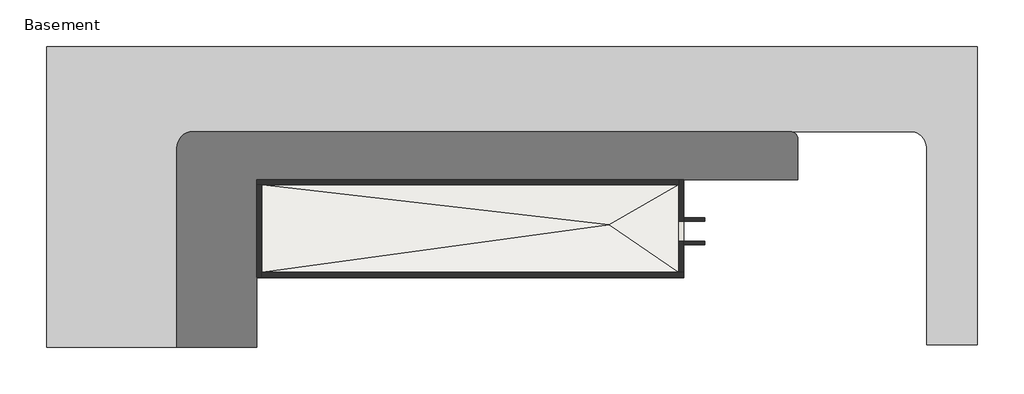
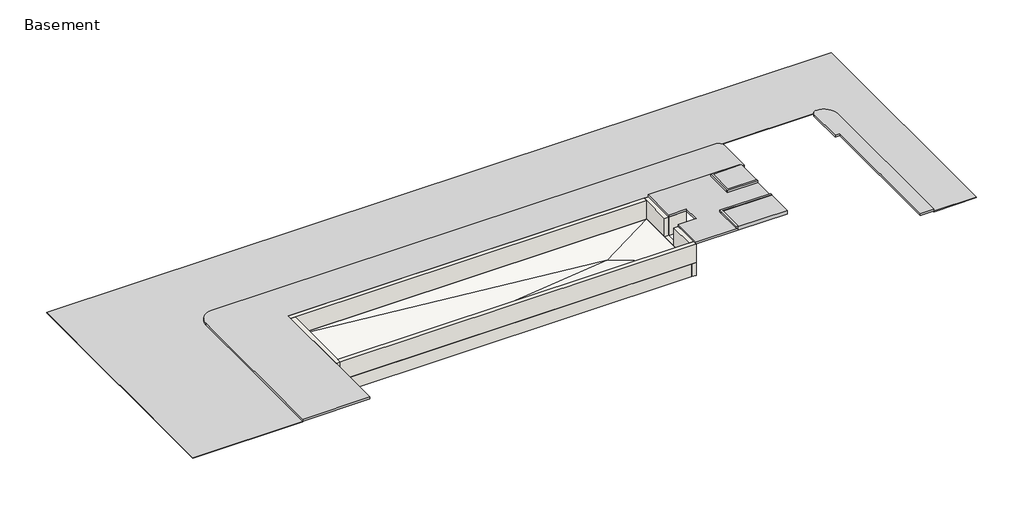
# One storey: 10 walls, 1 geographic element, 1 slab.
"""IFC4 building model written with IfcOpenShell, lengths in millimetres."""

from ifc_helpers import new_model, si_unit, frame, origin, place, context, project, spatial, polyline, outline, extrude, faceted_brep, transform, mapped, element, save
from components import street_street_e2ba851e

model = new_model("IFC4")

# Units and contexts
model_context = context("Model", 3, world=origin())
ifc_project = project(units=[si_unit("LENGTHUNIT", "METRE", prefix="MILLI")], contexts=[model_context])

# Site, building, storey
site = spatial("IfcSite", under=ifc_project)
building = spatial("IfcBuilding", under=site)
storey = spatial("IfcBuildingStorey", under=building, Name="Basement", Elevation=-2438.4)

# Geographic element
placement = place(None, origin())
street_street_shape = street_street_e2ba851e(model_context)
element("IfcGeographicElement", 1, ObjectType="Street : Street", at=placement, inside=storey, context=model_context, shape_type="MappedRepresentation", body=[
    mapped(street_street_shape, transform((0.0, 0.0, 0.0), x_axis=(1.0, 0.0, 0.0), y_axis=(0.0, 1.0, 0.0), z_axis=(0.0, 0.0, 1.0))),
])

# Slab
element("IfcSlab", 2, ObjectType="Generic - 12\"", at=placement, inside=storey, context=model_context, shape_type="Brep", body=[
    faceted_brep([(3859.0714708, 3214.7185985, -2743.2), (3859.0714708, 3214.7185985, -2438.4), (3859.0714708, -1808.1314015, -2438.4), (3859.0714708, -1808.1314015, -2743.2), (-20023.2785292, -1808.1314015, -2438.4), (-20023.2785292, -1808.1314015, -2743.2), (-20023.2785292, 3214.7185985, -2438.4), (-20023.2785292, 3214.7185985, -2743.2), (-128.4374213, 913.0097105, -2590.8), (-128.4374213, 913.0097105, -2895.6)], [[[0, 1, 2, 3]], [[3, 2, 4, 5]], [[5, 4, 6, 7]], [[7, 6, 1, 0]], [[6, 4, 8]], [[7, 9, 5]], [[2, 1, 8]], [[4, 2, 8]], [[6, 8, 1]], [[3, 9, 0]], [[5, 9, 3]], [[7, 0, 9]]]),
])

# Walls
element("IfcWall", 3, ObjectType="Generic - 12\" Masonry", at=placement, inside=storey, context=model_context, shape_type="Brep", body=[
    faceted_brep([(-20318.5535292, 3214.7185985, -3352.8), (-20023.2785292, 3214.7185985, -3352.8), (3859.0714708, 3214.7185985, -3352.8), (4154.3464708, 3214.7185985, -3352.8), (4154.3464708, 3214.7185985, -2438.4), (3859.0714708, 3214.7185985, -2438.4), (-20023.2785292, 3214.7185985, -2438.4), (-20318.5535292, 3214.7185985, -2438.4), (-20318.5535292, 3509.9935985, -3352.8), (-20318.5535292, 3509.9935985, -2438.4), (4154.3464708, 3509.9935985, -2438.4), (4154.3464708, 3509.9935985, -3352.8)], [[[0, 1, 2, 3, 4, 5, 6, 7]], [[8, 9, 10, 11]], [[3, 2, 1, 0, 8, 11]], [[7, 6, 5, 4, 10, 9]], [[4, 3, 11, 10]], [[0, 7, 9, 8]]]),
])
element("IfcWall", 4, ObjectType="Generic - 12\" Masonry", at=placement, inside=storey, context=model_context, shape_type="Brep", body=[
    faceted_brep([(3859.0714708, 3214.7185985, -3352.8), (3859.0714708, -1808.1314015, -3352.8), (3859.0714708, -2103.4064015, -3352.8), (3859.0714708, -2103.4064015, -2438.4), (3859.0714708, -1808.1314015, -2438.4), (3859.0714708, 3214.7185985, -2438.4), (4154.3464708, 3214.7185985, -3352.8), (4154.3464708, 3214.7185985, -2438.4), (4154.3464708, -2103.4064015, -2438.4), (4154.3464708, -2103.4064015, -3352.8)], [[[0, 1, 2, 3, 4, 5]], [[6, 7, 8, 9]], [[2, 1, 0, 6, 9]], [[5, 4, 3, 8, 7]], [[0, 5, 7, 6]], [[3, 2, 9, 8]]]),
])
element("IfcWall", 5, ObjectType="Generic - 12\" Masonry", at=placement, inside=storey, context=model_context, shape_type="Brep", body=[
    faceted_brep([(3859.0714708, -1808.1314015, -3352.8), (-20023.2785292, -1808.1314015, -3352.8), (-20318.5535292, -1808.1314015, -3352.8), (-20318.5535292, -1808.1314015, -2438.4), (-20023.2785292, -1808.1314015, -2438.4), (3859.0714708, -1808.1314015, -2438.4), (3859.0714708, -2103.4064015, -3352.8), (3859.0714708, -2103.4064015, -2438.4), (-20318.5535292, -2103.4064015, -2438.4), (-20318.5535292, -2103.4064015, -3352.8)], [[[0, 1, 2, 3, 4, 5]], [[6, 7, 8, 9]], [[2, 1, 0, 6, 9]], [[5, 4, 3, 8, 7]], [[0, 5, 7, 6]], [[3, 2, 9, 8]]]),
])
element("IfcWall", 6, ObjectType="Generic - 12\" Masonry", at=placement, inside=storey, context=model_context, shape_type="SweptSolid", body=[
    extrude(outline(polyline([(-20023.2785292, 3214.7185985), (-20023.2785292, -1808.1314015), (-20318.5535292, -1808.1314015), (-20318.5535292, 3214.7185985), (-20023.2785292, 3214.7185985)])), frame((0.0, 0.0, -3352.8), z_axis=(0.0, 0.0, 1.0), x_axis=(1.0, 0.0, 0.0)), (0.0, 0.0, 1.0), 914.4),
])
element("IfcWall", 7, ObjectType="Generic - 12\" Masonry", at=placement, inside=storey, context=model_context, shape_type="Brep", body=[
    faceted_brep([(-20318.5535292, 3214.7185985, -2438.4), (-20023.2785292, 3214.7185985, -2438.4), (3859.0714708, 3214.7185985, -2438.4), (3859.0714708, 3214.7185985, -1117.6), (-20023.2785292, 3214.7185985, -1117.6), (-20318.5535292, 3214.7185985, -1117.6), (-20318.5535292, 3509.9935985, -2438.4), (-20318.5535292, 3509.9935985, -1117.6), (3859.0714708, 3509.9935985, -1117.6), (3859.0714708, 3509.9935985, -2438.4)], [[[0, 1, 2, 3, 4, 5]], [[6, 7, 8, 9]], [[2, 1, 0, 6, 9]], [[5, 4, 3, 8, 7]], [[0, 5, 7, 6]], [[3, 2, 9, 8]]]),
])
element("IfcWall", 8, ObjectType="Generic - 12\" Masonry", at=placement, inside=storey, context=model_context, shape_type="Brep", body=[
    faceted_brep([(-20023.2785292, -2103.4064015, -2438.4), (-20023.2785292, -1808.1314015, -2438.4), (-20023.2785292, 3214.7185985, -2438.4), (-20023.2785292, 3214.7185985, -1117.6), (-20023.2785292, -1808.1314015, -1117.6), (-20023.2785292, -2103.4064015, -1117.6), (-20318.5535292, -2103.4064015, -2438.4), (-20318.5535292, -2103.4064015, -1117.6), (-20318.5535292, 3214.7185985, -1117.6), (-20318.5535292, 3214.7185985, -2438.4)], [[[0, 1, 2, 3, 4, 5]], [[6, 7, 8, 9]], [[2, 1, 0, 6, 9]], [[5, 4, 3, 8, 7]], [[0, 5, 7, 6]], [[3, 2, 9, 8]]]),
])
element("IfcWall", 9, ObjectType="Generic - 12\" Masonry", at=placement, inside=storey, context=model_context, shape_type="Brep", body=[
    faceted_brep([(4154.3464708, -1808.1314015, -2438.4), (3859.0714708, -1808.1314015, -2438.4), (-20023.2785292, -1808.1314015, -2438.4), (-20023.2785292, -1808.1314015, -1117.6), (3859.0714708, -1808.1314015, -1117.6), (4154.3464708, -1808.1314015, -1117.6), (4154.3464708, -2103.4064015, -2438.4), (4154.3464708, -2103.4064015, -1117.6), (-20023.2785292, -2103.4064015, -1117.6), (-20023.2785292, -2103.4064015, -2438.4)], [[[0, 1, 2, 3, 4, 5]], [[6, 7, 8, 9]], [[2, 1, 0, 6, 9]], [[5, 4, 3, 8, 7]], [[0, 5, 7, 6]], [[3, 2, 9, 8]]]),
])
element("IfcWall", 10, ObjectType="Generic - 12\" Masonry", at=placement, inside=storey, context=model_context, shape_type="Brep", body=[
    faceted_brep([(3859.0714708, -1808.1314015, -2438.4), (3859.0714708, -1808.1314015, -1117.6), (3859.0714708, -14.2526736, -1117.6), (3859.0714708, -14.2526736, -2438.4), (4154.3464708, -1808.1314015, -1117.6), (4154.3464708, -1808.1314015, -2438.4), (4154.3464708, -14.2526736, -2438.4), (4154.3464708, -14.2526736, -1117.6)], [[[0, 1, 2, 3]], [[4, 5, 6, 7]], [[5, 0, 3, 6]], [[1, 4, 7, 2]], [[1, 0, 5, 4]], [[3, 2, 7, 6]]]),
    faceted_brep([(3859.0714708, 3509.9935985, -1117.6), (3859.0714708, 3509.9935985, -2438.4), (3859.0714708, 3214.7185985, -2438.4), (3859.0714708, 1119.8194782, -2438.4), (3859.0714708, 1119.8194782, -1117.6), (3859.0714708, 3214.7185985, -1117.6), (4154.3464708, 3509.9935985, -2438.4), (4154.3464708, 3509.9935985, -1117.6), (4154.3464708, 1119.8194782, -1117.6), (4154.3464708, 1119.8194782, -2438.4)], [[[0, 1, 2, 3, 4, 5]], [[6, 7, 8, 9]], [[1, 6, 9, 3, 2]], [[7, 0, 5, 4, 8]], [[1, 0, 7, 6]], [[4, 3, 9, 8]]]),
])
element("IfcWall", 11, ObjectType="Generic - 8\" - Filled", at=placement, inside=storey, context=model_context, shape_type="SweptSolid", body=[
    extrude(outline(polyline([(5361.4688631, -217.4526736), (4154.3464708, -217.4526736), (4154.3464708, -14.2526736), (5361.4688631, -14.2526736), (5361.4688631, -217.4526736)])), frame((0.0, 0.0, -2438.4), z_axis=(0.0, 0.0, 1.0), x_axis=(1.0, 0.0, 0.0)), (0.0, 0.0, 1.0), 1320.8),
])
element("IfcWall", 12, ObjectType="Generic - 8\" - Filled", at=placement, inside=storey, context=model_context, shape_type="SweptSolid", body=[
    extrude(outline(polyline([(4154.3464708, 1323.0194782), (5361.4688631, 1323.0194782), (5361.4688631, 1119.8194782), (4154.3464708, 1119.8194782), (4154.3464708, 1323.0194782)])), frame((0.0, 0.0, -2438.4), z_axis=(0.0, 0.0, 1.0), x_axis=(1.0, 0.0, 0.0)), (0.0, 0.0, 1.0), 1320.8),
])

save(model, "model.ifc")
